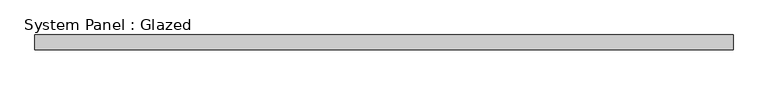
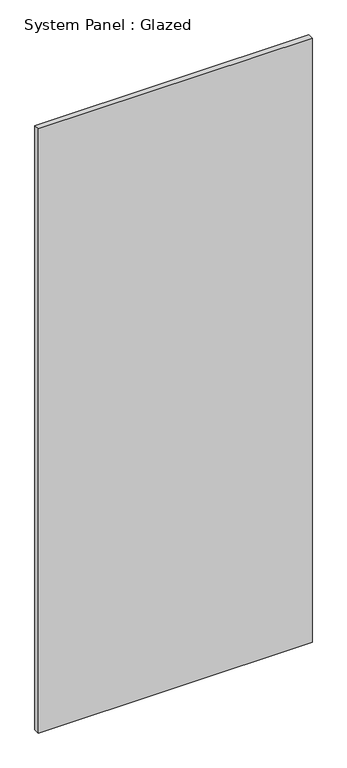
"""IFC4 building model written with IfcOpenShell, lengths in millimetres: plate geometry, System Panel : Glazed."""

from ifc_helpers import new_model, si_unit, origin, origin_with_axes, place, context, project, spatial, polyline, outline, extrude, source, transform, mapped, element, save


def system_panel_glazed_01de0db0(model_context):
    return source(origin(), model_context, "Body", "SweptSolid", [
        extrude(outline(polyline([(600.0, -44.45), (-600.0, -44.45), (-600.0, -19.05), (600.0, -19.05), (600.0, -44.45)])), origin_with_axes(), (0.0, 0.0, 1.0), 2800.0),
    ])


if __name__ == "__main__":
    model = new_model("IFC4")
    model_context = context("Model", 3, world=origin())
    ifc_project = project(units=[si_unit("LENGTHUNIT", "METRE", prefix="MILLI")], contexts=[model_context])
    site = spatial("IfcSite", under=ifc_project)
    building = spatial("IfcBuilding", under=site)
    placement = place(None, origin())
    system_panel_glazed_shape = system_panel_glazed_01de0db0(model_context)
    element("IfcPlate", 1, ObjectType="System Panel : Glazed", at=placement, inside=building, context=model_context, shape_type="MappedRepresentation", body=[
        mapped(system_panel_glazed_shape, transform((0.0, 0.0, 0.0), x_axis=(1.0, 0.0, 0.0), y_axis=(0.0, 1.0, 0.0), z_axis=(0.0, 0.0, 1.0))),
    ])
    save(model, "model.ifc")
